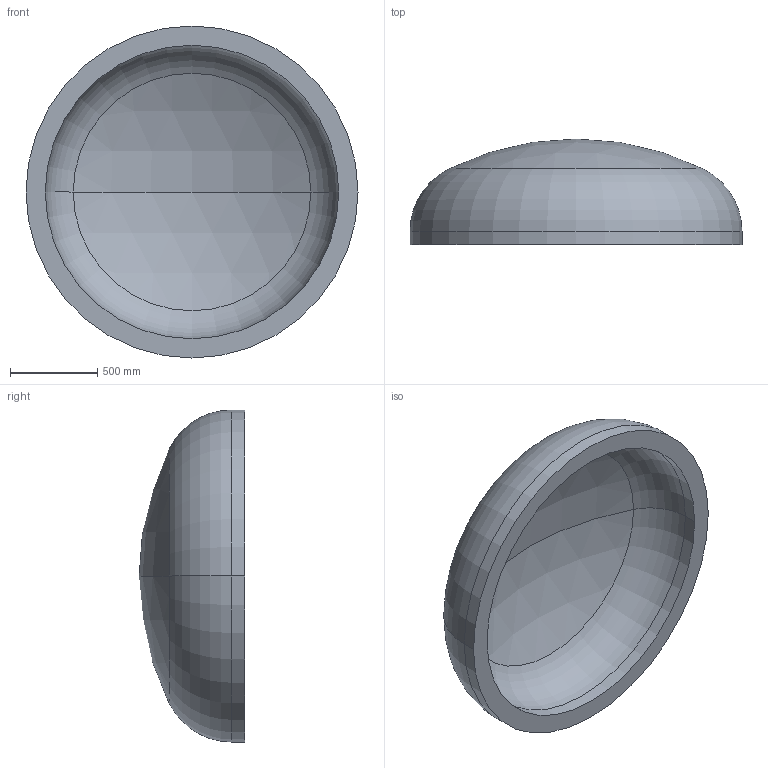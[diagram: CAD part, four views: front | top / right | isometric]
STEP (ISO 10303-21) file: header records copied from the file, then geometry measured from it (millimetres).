
FILE_DESCRIPTION (( 'STEP AP203' ), '1' );
FILE_NAME ('DIN 28013 Korbbogenform_-_Boden DIN 28013 - 1900 x 75 - I - s=110.step', '2016-07-01T13:28:37', ( '' ), ( '' ), 'SwSTEP 2.0', 'SolidWorks 2013', '' );
FILE_SCHEMA (( 'CONFIG_CONTROL_DESIGN' ));
Length unit declared in the file: millimetre
Products named in the file (1): DIN 28013 Korbbogenform_-_Boden DIN 28013 - 1900 x 75 - I - s=110
Bounding box: 1900 x 604.82 x 1900 mm (x, y, z)
Volume: 446830856.9 mm3; surface area: 8768117 mm2
Topology: 1 solids, 1 shells, 13 faces, 24 edges, 14 vertices
Faces by surface type: torus 4, cylinder 4, sphere 4, plane 1
Entity records: 407 total; most frequent: DIRECTION 72, CARTESIAN_POINT 52, ORIENTED_EDGE 48, AXIS2_PLACEMENT_3D 34, EDGE_CURVE 24, CIRCLE 20, VERTEX_POINT 14, EDGE_LOOP 14
